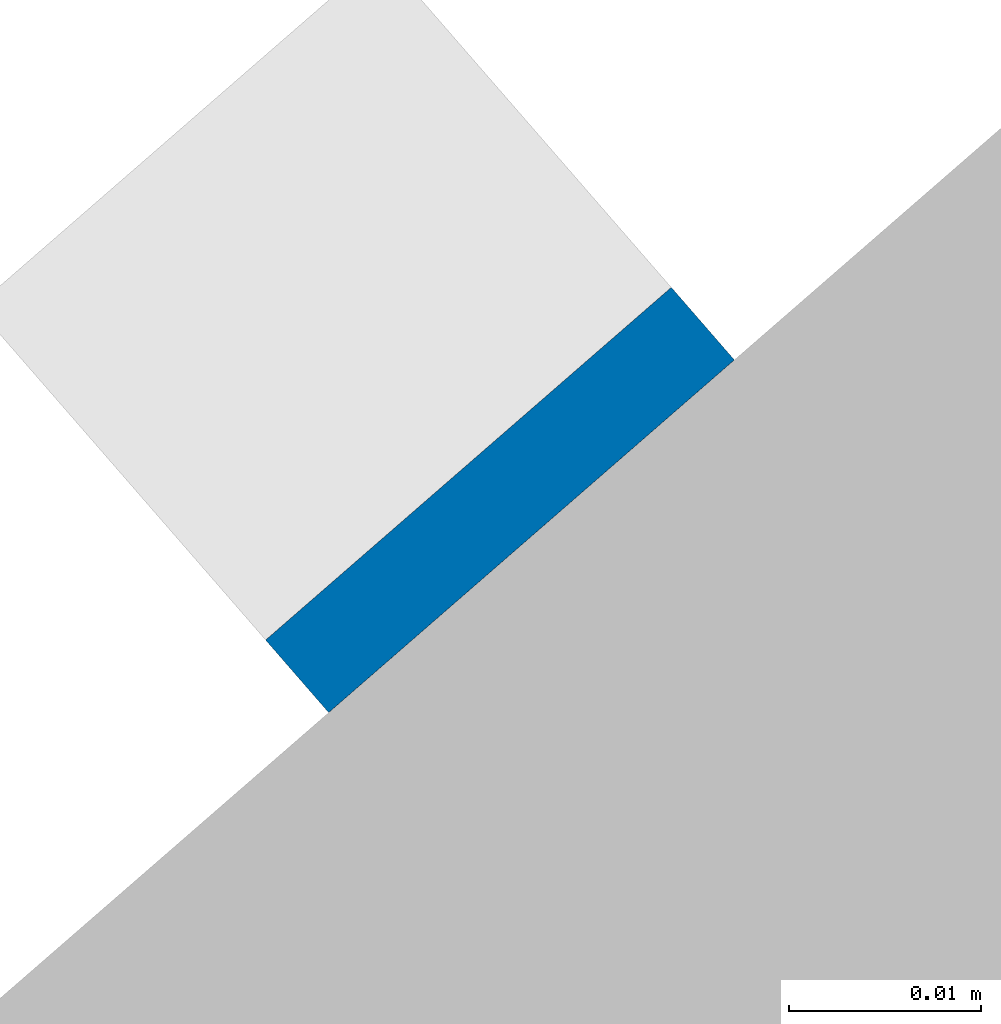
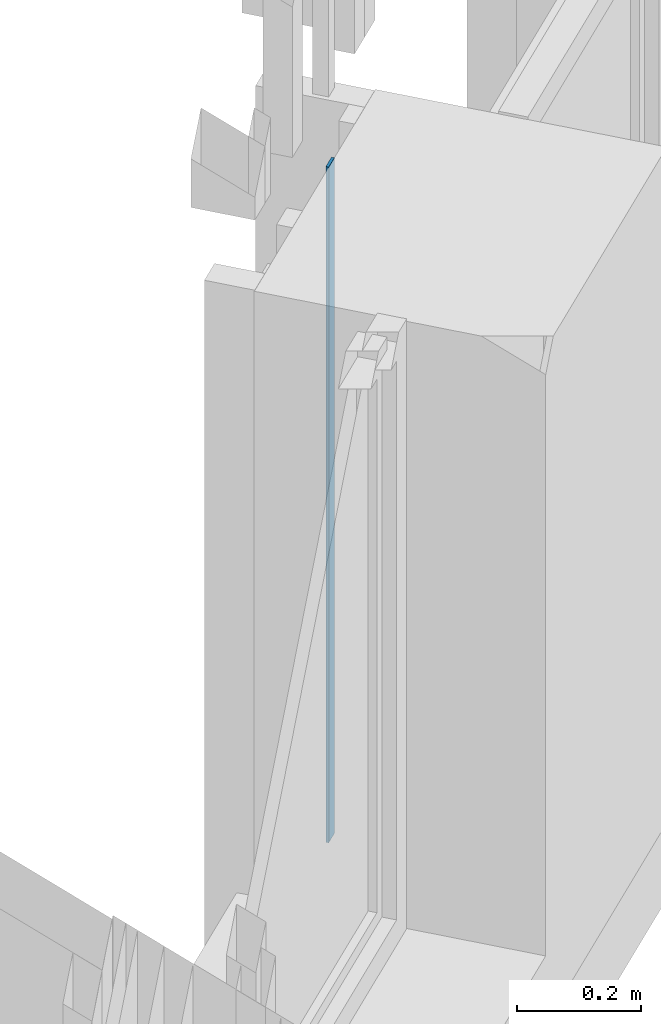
# One storey, part 228 of 390: 1 wall.
"""IFC2X3 building model written with IfcOpenShell, lengths in millimetres."""

from ifc_helpers import new_model, entity, si_unit, converted_unit, derived_unit, money_unit, direction, frame, origin_with_axes, place, context, subcontext, project, spatial, faceted_brep, material, type_object, element, save


model = new_model("IFC2X3")

# Units and contexts
model_context = context("Model", 3, precision=1e-05, world=origin_with_axes(), true_north=direction((0.0, 1.0)))
body_context = subcontext(model_context, "Body", "Model", "MODEL_VIEW")
ifc_project = project(units=[si_unit("LENGTHUNIT", "METRE", prefix="MILLI"), si_unit("AREAUNIT", "SQUARE_METRE"), si_unit("VOLUMEUNIT", "CUBIC_METRE"), converted_unit("PLANEANGLEUNIT", "DEGREE", entity("IfcPlaneAngleMeasure", 0.0174532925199), si_unit("PLANEANGLEUNIT", "RADIAN"), dimensions=[0, 0, 0, 0, 0, 0, 0]), si_unit("SOLIDANGLEUNIT", "STERADIAN"), money_unit("EUR"), converted_unit("TIMEUNIT", "Year", entity("IfcTimeMeasure", 31556926.0), si_unit("TIMEUNIT", "SECOND"), dimensions=[0, 0, 1, 0, 0, 0, 0]), si_unit("MASSUNIT", "GRAM", prefix="KILO"), si_unit("THERMODYNAMICTEMPERATUREUNIT", "DEGREE_CELSIUS"), si_unit("LUMINOUSINTENSITYUNIT", "LUMEN"), si_unit("ENERGYUNIT", "JOULE", prefix="MEGA"), derived_unit("THERMALCONDUCTANCEUNIT", [(si_unit("POWERUNIT", "WATT"), 1), (si_unit("LENGTHUNIT", "METRE"), -1), (si_unit("THERMODYNAMICTEMPERATUREUNIT", "KELVIN"), -1)]), derived_unit("SPECIFICHEATCAPACITYUNIT", [(si_unit("ENERGYUNIT", "JOULE"), 1), (si_unit("MASSUNIT", "GRAM", prefix="KILO"), -1), (si_unit("THERMODYNAMICTEMPERATUREUNIT", "KELVIN"), -1)]), derived_unit("MASSDENSITYUNIT", [(si_unit("MASSUNIT", "GRAM", prefix="KILO"), 1), (si_unit("VOLUMEUNIT", "CUBIC_METRE"), -1)])], contexts=[model_context])

# Site, building, storey
site_placement = place(None, origin_with_axes())
site = spatial("IfcSite", under=ifc_project, at=site_placement, Name="Site", CompositionType="ELEMENT")
building_placement = place(site_placement, origin_with_axes())
building = spatial("IfcBuilding", under=site, at=building_placement, Name="Building", CompositionType="ELEMENT")
storey_placement = place(building_placement, origin_with_axes())
storey = spatial("IfcBuildingStorey", under=building, at=storey_placement, Name="1 korrus", CompositionType="ELEMENT", Elevation=0.0)

# Wall
ifc_material = material(Name="Site specified")
wall_type = type_object("IfcWallType", Name="Puitfassaadi ribistik", PredefinedType="NOTDEFINED")
wall_placement = place(storey_placement, frame((139328.198716, 91107.5206937, 0.0), z_axis=(0.0, 0.0, 1.0), x_axis=(0.754709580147, 0.656059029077, 0.0)))
element("IfcWall", 1, at=wall_placement, inside=storey, type_object=wall_type, material=ifc_material, Name="Site specified", context=body_context, shape_type="Brep", body=[
    faceted_brep([(-14.0, 14.0, 1330.0), (-14.0, 8.99364785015, 1330.0), (14.0000000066, 8.99358153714, 1330.0), (14.0, 14.0, 1330.0), (-14.0, 14.0, 0.0), (-14.0, 8.99085528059, 0.0), (14.0, 8.99079188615, 0.0), (14.0, 14.0, 0.0)], [[[0, 1, 2, 3]], [[4, 5, 1, 0]], [[5, 6, 2, 1]], [[3, 2, 6, 7]], [[0, 3, 7, 4]], [[7, 6, 5, 4]]]),
])

save(model, "model.ifc")
